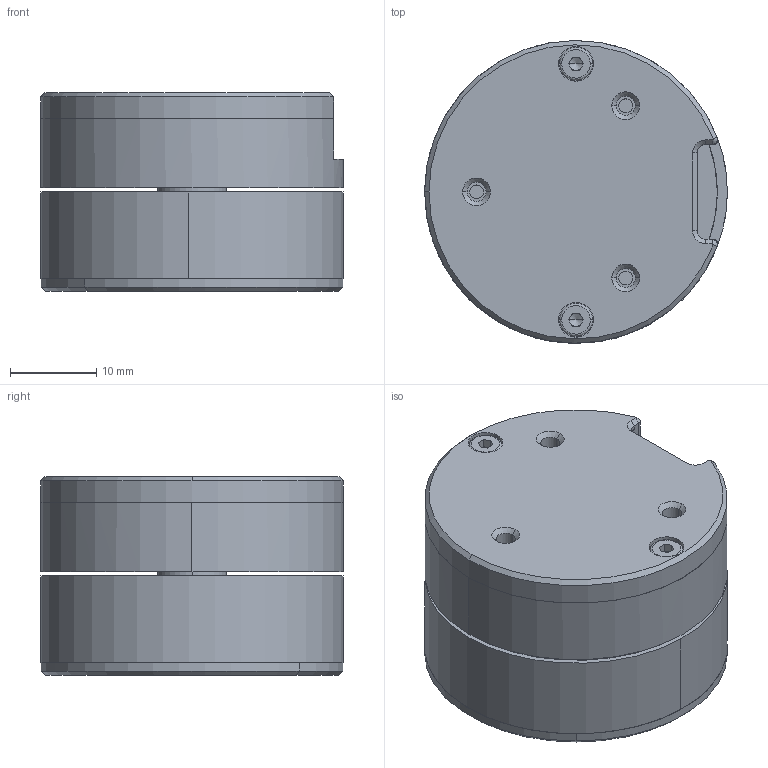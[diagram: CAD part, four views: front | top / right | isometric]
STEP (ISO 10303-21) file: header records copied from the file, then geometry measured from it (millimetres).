
FILE_DESCRIPTION (( 'STEP AP214' ), '1' );
FILE_NAME ('MS3506v2.STEP', '2022-02-21T15:36:20', ( '' ), ( '' ), 'SwSTEP 2.0', 'SolidWorks 2018', '' );
FILE_SCHEMA (( 'AUTOMOTIVE_DESIGN' ));
Length unit declared in the file: millimetre
Products named in the file (2): MS3506v2
Bounding box: 35 x 35 x 23 mm (x, y, z)
Volume: 6072.7 mm3; surface area: 12049.7 mm2
Topology: 15 solids, 15 shells, 368 faces, 934 edges, 609 vertices
Faces by surface type: cylinder 183, plane 146, cone 30, bspline 9
Entity records: 16513 total; most frequent: CARTESIAN_POINT 3134, DIRECTION 1986, ORIENTED_EDGE 1860, EDGE_CURVE 930, AXIS2_PLACEMENT_3D 757, VERTEX_POINT 609, LINE 472, VECTOR 472
